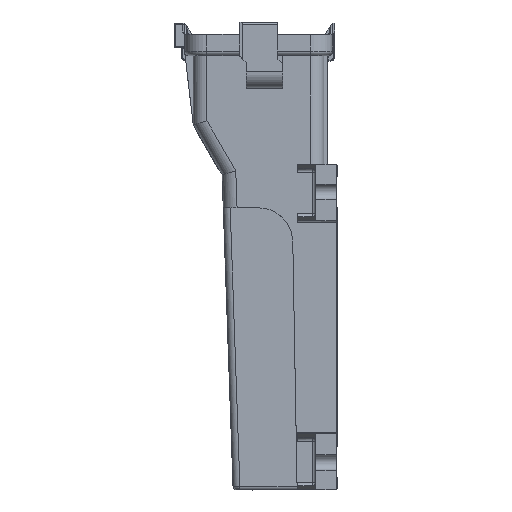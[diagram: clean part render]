
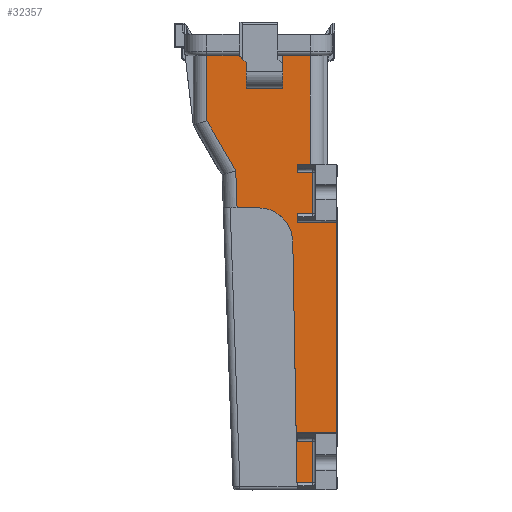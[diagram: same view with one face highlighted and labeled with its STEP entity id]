
A CAD part, left-side view. The second image highlights one B-rep face of the part: STEP entity #32357.
In plain terms, the highlighted planar face has unit normal (-1, 0, 0).
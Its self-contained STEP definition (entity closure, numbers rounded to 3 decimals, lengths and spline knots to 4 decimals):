
#2=DIRECTION('',(0.,-1.,0.));
#3=VECTOR('',#2,0.47);
#4=CARTESIAN_POINT('',(-3.1975,1.7,1.));
#5=LINE('',#4,#3);
#6=DIRECTION('',(0.,0.707,0.707));
#7=VECTOR('',#6,0.1414);
#8=CARTESIAN_POINT('',(-3.1975,1.13,0.9));
#9=LINE('',#8,#7);
#10=DIRECTION('',(0.,0.,1.));
#11=VECTOR('',#10,0.37);
#12=CARTESIAN_POINT('',(-3.1975,1.13,0.53));
#13=LINE('',#12,#11);
#14=DIRECTION('',(0.,1.,0.));
#15=VECTOR('',#14,0.53);
#16=CARTESIAN_POINT('',(-3.1975,0.6,0.53));
#17=LINE('',#16,#15);
#18=DIRECTION('',(0.,0.,-1.));
#19=VECTOR('',#18,0.47);
#20=CARTESIAN_POINT('',(-3.1975,0.6,1.));
#21=LINE('',#20,#19);
#22=DIRECTION('',(0.,-1.,0.));
#23=VECTOR('',#22,0.4);
#24=CARTESIAN_POINT('',(-3.1975,0.6,1.));
#25=LINE('',#24,#23);
#26=DIRECTION('',(0.,-1.,0.));
#27=VECTOR('',#26,0.19);
#28=CARTESIAN_POINT('',(-3.1975,0.39,-0.58));
#29=LINE('',#28,#27);
#30=DIRECTION('',(0.,-1.,0.));
#31=VECTOR('',#30,0.57);
#32=CARTESIAN_POINT('',(-3.1975,0.39,-1.42));
#33=LINE('',#32,#31);
#34=DIRECTION('',(0.,1.,0.));
#35=VECTOR('',#34,0.57);
#36=CARTESIAN_POINT('',(-3.1975,-0.18,-4.47));
#37=LINE('',#36,#35);
#38=DIRECTION('',(0.,-0.017,-1.));
#39=VECTOR('',#38,3.6005);
#40=CARTESIAN_POINT('',(-3.1975,0.4528,-1.71));
#41=LINE('',#40,#39);
#42=CARTESIAN_POINT('',(-3.1975,0.9528,-1.71));
#43=DIRECTION('',(1.,0.,0.));
#44=DIRECTION('',(0.,0.,1.));
#45=AXIS2_PLACEMENT_3D('',#42,#43,#44);
#47=DIRECTION('',(0.,-1.,0.));
#48=VECTOR('',#47,0.3102);
#49=CARTESIAN_POINT('',(-3.1975,1.2631,-1.21));
#50=LINE('',#49,#48);
#7561=DIRECTION('',(0.,-0.035,-0.999));
#7562=VECTOR('',#7561,0.5389);
#7563=CARTESIAN_POINT('',(-3.1975,1.2819,-0.6714));
#7564=LINE('',#7563,#7562);
#7581=DIRECTION('',(0.,-0.5,-0.866));
#7582=VECTOR('',#7581,0.8369);
#7583=CARTESIAN_POINT('',(-3.1975,1.7,0.0535));
#7584=LINE('',#7583,#7582);
#10573=CARTESIAN_POINT('',(-3.1975,0.39,-5.2));
#10575=DIRECTION('',(0.,1.,0.));
#10576=VECTOR('',#10575,0.22);
#10577=CARTESIAN_POINT('',(-3.1975,0.17,-5.2));
#10578=LINE('',#10577,#10576);
#10579=DIRECTION('',(0.,0.,1.));
#10580=VECTOR('',#10579,0.11);
#10581=CARTESIAN_POINT('',(-3.1975,0.39,-5.31));
#10582=LINE('',#10581,#10580);
#10867=DIRECTION('',(0.,0.,-1.));
#10868=VECTOR('',#10867,3.05);
#10869=CARTESIAN_POINT('',(-3.1975,-0.18,-1.42));
#10870=LINE('',#10869,#10868);
#11454=DIRECTION('',(0.,0.,1.));
#11455=VECTOR('',#11454,0.13);
#11456=CARTESIAN_POINT('',(-3.1975,0.39,-4.6));
#11457=LINE('',#11456,#11455);
#11496=DIRECTION('',(0.,0.,-1.));
#11497=VECTOR('',#11496,0.6);
#11498=CARTESIAN_POINT('',(-3.1975,0.17,-4.6));
#11499=LINE('',#11498,#11497);
#11523=DIRECTION('',(0.,-1.,0.));
#11524=VECTOR('',#11523,0.22);
#11525=CARTESIAN_POINT('',(-3.1975,0.39,-4.6));
#11526=LINE('',#11525,#11524);
#11635=DIRECTION('',(0.,0.,1.));
#11636=VECTOR('',#11635,0.13);
#11637=CARTESIAN_POINT('',(-3.1975,0.39,-1.42));
#11638=LINE('',#11637,#11636);
#11673=DIRECTION('',(0.,0.,-1.));
#11674=VECTOR('',#11673,0.6);
#11675=CARTESIAN_POINT('',(-3.1975,0.17,-0.69));
#11676=LINE('',#11675,#11674);
#11700=DIRECTION('',(0.,-1.,0.));
#11701=VECTOR('',#11700,0.22);
#11702=CARTESIAN_POINT('',(-3.1975,0.39,-0.69));
#11703=LINE('',#11702,#11701);
#11748=DIRECTION('',(0.,0.,1.));
#11749=VECTOR('',#11748,0.11);
#11750=CARTESIAN_POINT('',(-3.1975,0.39,-0.69));
#11751=LINE('',#11750,#11749);
#12118=DIRECTION('',(0.,0.,1.));
#12119=VECTOR('',#12118,1.58);
#12120=CARTESIAN_POINT('',(-3.1975,0.2,-0.58));
#12121=LINE('',#12120,#12119);
#12131=DIRECTION('',(0.,1.,0.));
#12132=VECTOR('',#12131,0.22);
#12133=CARTESIAN_POINT('',(-3.1975,0.17,-1.29));
#12134=LINE('',#12133,#12132);
#19572=DIRECTION('',(0.,0.,-1.));
#19573=VECTOR('',#19572,0.9465);
#19574=CARTESIAN_POINT('',(-3.1975,1.7,1.));
#19575=LINE('',#19574,#19573);
#26723=CARTESIAN_POINT('',(-3.1975,0.9528,-1.21));
#26724=CARTESIAN_POINT('',(-3.1975,0.4528,-1.71));
#26725=VERTEX_POINT('',#26723);
#26726=VERTEX_POINT('',#26724);
#26747=CARTESIAN_POINT('',(-3.1975,1.7,0.0535));
#26748=CARTESIAN_POINT('',(-3.1975,1.2819,-0.6714));
#26749=VERTEX_POINT('',#26747);
#26750=VERTEX_POINT('',#26748);
#26753=CARTESIAN_POINT('',(-3.1975,1.2631,-1.21));
#26754=VERTEX_POINT('',#26753);
#26797=CARTESIAN_POINT('',(-3.1975,0.2,1.));
#26799=VERTEX_POINT('',#26797);
#26805=CARTESIAN_POINT('',(-3.1975,1.7,1.));
#26806=VERTEX_POINT('',#26805);
#26893=CARTESIAN_POINT('',(-3.1975,0.6,1.));
#26894=CARTESIAN_POINT('',(-3.1975,0.6,0.53));
#26895=VERTEX_POINT('',#26893);
#26896=VERTEX_POINT('',#26894);
#27857=CARTESIAN_POINT('',(-3.1975,0.39,-5.31));
#27858=VERTEX_POINT('',#27857);
#27863=CARTESIAN_POINT('',(-3.1975,0.39,-0.58));
#27864=CARTESIAN_POINT('',(-3.1975,0.2,-0.58));
#27865=VERTEX_POINT('',#27863);
#27866=VERTEX_POINT('',#27864);
#28017=CARTESIAN_POINT('',(-3.1975,0.17,-1.29));
#28018=CARTESIAN_POINT('',(-3.1975,0.39,-1.29));
#28019=VERTEX_POINT('',#28017);
#28020=VERTEX_POINT('',#28018);
#28023=CARTESIAN_POINT('',(-3.1975,0.17,-0.69));
#28024=VERTEX_POINT('',#28023);
#28027=CARTESIAN_POINT('',(-3.1975,0.39,-0.69));
#28028=VERTEX_POINT('',#28027);
#28037=CARTESIAN_POINT('',(-3.1975,0.17,-4.6));
#28038=CARTESIAN_POINT('',(-3.1975,0.17,-5.2));
#28039=VERTEX_POINT('',#28037);
#28040=VERTEX_POINT('',#28038);
#28051=CARTESIAN_POINT('',(-3.1975,0.39,-4.6));
#28052=VERTEX_POINT('',#28051);
#28111=VERTEX_POINT('',#10573);
#28757=CARTESIAN_POINT('',(-3.1975,1.23,1.));
#28759=VERTEX_POINT('',#28757);
#28760=CARTESIAN_POINT('',(-3.1975,1.13,0.53));
#28762=VERTEX_POINT('',#28760);
#28774=CARTESIAN_POINT('',(-3.1975,1.13,0.9));
#28775=VERTEX_POINT('',#28774);
#32200=CARTESIAN_POINT('',(-3.1975,0.39,-1.42));
#32201=CARTESIAN_POINT('',(-3.1975,-0.18,-1.42));
#32202=VERTEX_POINT('',#32200);
#32203=VERTEX_POINT('',#32201);
#32208=CARTESIAN_POINT('',(-3.1975,-0.18,-4.47));
#32209=CARTESIAN_POINT('',(-3.1975,0.39,-4.47));
#32210=VERTEX_POINT('',#32208);
#32211=VERTEX_POINT('',#32209);
#32296=CARTESIAN_POINT('',(-3.1975,0.,0.));
#32297=DIRECTION('',(1.,0.,0.));
#32298=DIRECTION('',(0.,0.,-1.));
#32299=AXIS2_PLACEMENT_3D('',#32296,#32297,#32298);
#32300=PLANE('',#32299);
#32302=ORIENTED_EDGE('',*,*,#32301,.T.);
#32304=ORIENTED_EDGE('',*,*,#32303,.F.);
#32306=ORIENTED_EDGE('',*,*,#32305,.F.);
#32308=ORIENTED_EDGE('',*,*,#32307,.F.);
#32310=ORIENTED_EDGE('',*,*,#32309,.F.);
#32312=ORIENTED_EDGE('',*,*,#32311,.T.);
#32314=ORIENTED_EDGE('',*,*,#32313,.F.);
#32316=ORIENTED_EDGE('',*,*,#32315,.F.);
#32318=ORIENTED_EDGE('',*,*,#32317,.F.);
#32320=ORIENTED_EDGE('',*,*,#32319,.T.);
#32322=ORIENTED_EDGE('',*,*,#32321,.T.);
#32324=ORIENTED_EDGE('',*,*,#32323,.T.);
#32326=ORIENTED_EDGE('',*,*,#32325,.F.);
#32328=ORIENTED_EDGE('',*,*,#32327,.T.);
#32330=ORIENTED_EDGE('',*,*,#32329,.T.);
#32332=ORIENTED_EDGE('',*,*,#32331,.T.);
#32334=ORIENTED_EDGE('',*,*,#32333,.F.);
#32336=ORIENTED_EDGE('',*,*,#32335,.T.);
#32338=ORIENTED_EDGE('',*,*,#32337,.T.);
#32340=ORIENTED_EDGE('',*,*,#32339,.T.);
#32342=ORIENTED_EDGE('',*,*,#32341,.F.);
#32344=ORIENTED_EDGE('',*,*,#32343,.F.);
#32346=ORIENTED_EDGE('',*,*,#32345,.F.);
#32348=ORIENTED_EDGE('',*,*,#32347,.F.);
#32350=ORIENTED_EDGE('',*,*,#32349,.F.);
#32352=ORIENTED_EDGE('',*,*,#32351,.F.);
#32354=ORIENTED_EDGE('',*,*,#32353,.F.);
#32355=EDGE_LOOP('',(#32302,#32304,#32306,#32308,#32310,#32312,#32314,#32316,
#32318,#32320,#32322,#32324,#32326,#32328,#32330,#32332,#32334,#32336,#32338,
#32340,#32342,#32344,#32346,#32348,#32350,#32352,#32354));
#32356=FACE_OUTER_BOUND('',#32355,.F.);
#32357=ADVANCED_FACE('',(#32356),#32300,.F.);
#46=CIRCLE('',#45,0.5);
#32301=EDGE_CURVE('',#26806,#28759,#5,.T.);
#32303=EDGE_CURVE('',#28775,#28759,#9,.T.);
#32305=EDGE_CURVE('',#28762,#28775,#13,.T.);
#32307=EDGE_CURVE('',#26896,#28762,#17,.T.);
#32309=EDGE_CURVE('',#26895,#26896,#21,.T.);
#32311=EDGE_CURVE('',#26895,#26799,#25,.T.);
#32313=EDGE_CURVE('',#27866,#26799,#12121,.T.);
#32315=EDGE_CURVE('',#27865,#27866,#29,.T.);
#32317=EDGE_CURVE('',#28028,#27865,#11751,.T.);
#32319=EDGE_CURVE('',#28028,#28024,#11703,.T.);
#32321=EDGE_CURVE('',#28024,#28019,#11676,.T.);
#32323=EDGE_CURVE('',#28019,#28020,#12134,.T.);
#32325=EDGE_CURVE('',#32202,#28020,#11638,.T.);
#32327=EDGE_CURVE('',#32202,#32203,#33,.T.);
#32329=EDGE_CURVE('',#32203,#32210,#10870,.T.);
#32331=EDGE_CURVE('',#32210,#32211,#37,.T.);
#32333=EDGE_CURVE('',#28052,#32211,#11457,.T.);
#32335=EDGE_CURVE('',#28052,#28039,#11526,.T.);
#32337=EDGE_CURVE('',#28039,#28040,#11499,.T.);
#32339=EDGE_CURVE('',#28040,#28111,#10578,.T.);
#32341=EDGE_CURVE('',#27858,#28111,#10582,.T.);
#32343=EDGE_CURVE('',#26726,#27858,#41,.T.);
#32345=EDGE_CURVE('',#26725,#26726,#46,.T.);
#32347=EDGE_CURVE('',#26754,#26725,#50,.T.);
#32349=EDGE_CURVE('',#26750,#26754,#7564,.T.);
#32351=EDGE_CURVE('',#26749,#26750,#7584,.T.);
#32353=EDGE_CURVE('',#26806,#26749,#19575,.T.);
